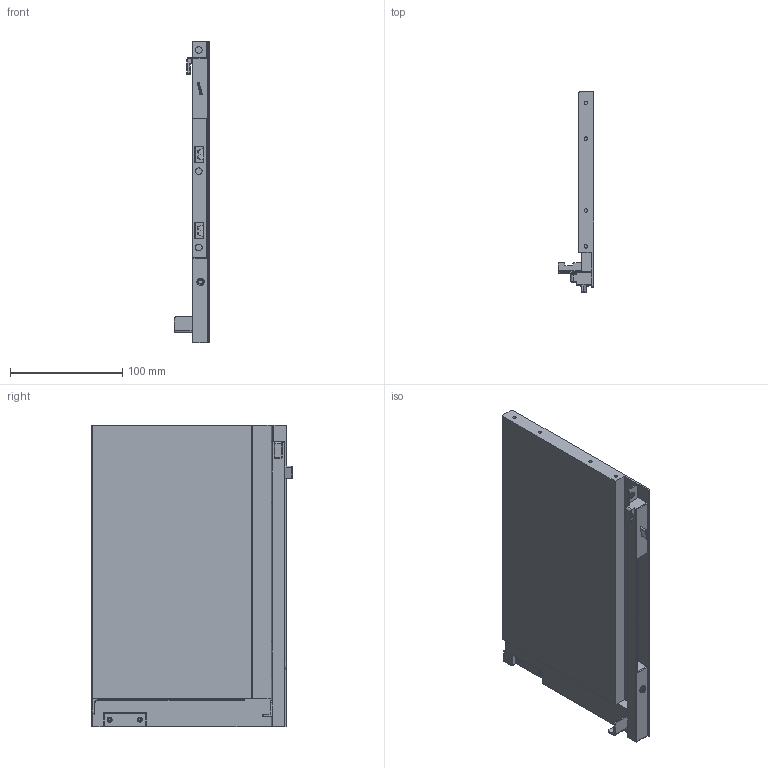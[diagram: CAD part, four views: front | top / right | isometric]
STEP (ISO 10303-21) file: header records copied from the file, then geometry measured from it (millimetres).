
FILE_DESCRIPTION (( 'STEP AP203' ), '1' );
FILE_NAME ('HT132701-R.STEP', '2022-06-28T08:31:16', ( 'Users' ), ( 'Microsoft' ), 'SwSTEP 2.0', 'SolidWorks 2018', '' );
FILE_SCHEMA (( 'CONFIG_CONTROL_DESIGN' ));
Length unit declared in the file: millimetre
Products named in the file (1): HT132701-R
Bounding box: 31.3 x 179 x 269 mm (x, y, z)
Volume: 532995.4 mm3; surface area: 120041.9 mm2
Topology: 1 solids, 8 shells, 373 faces, 936 edges, 581 vertices
Faces by surface type: plane 176, cylinder 133, torus 29, bspline 23, cone 6, sphere 6
Entity records: 11621 total; most frequent: CARTESIAN_POINT 2750, ORIENTED_EDGE 1854, DIRECTION 1808, EDGE_CURVE 927, AXIS2_PLACEMENT_3D 621, VERTEX_POINT 581, VECTOR 566, LINE 566
